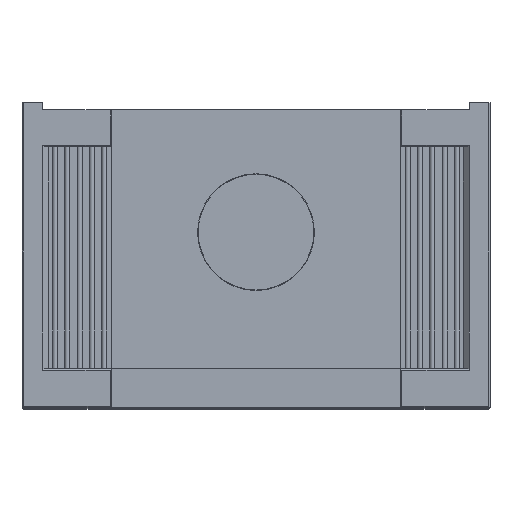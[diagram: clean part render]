
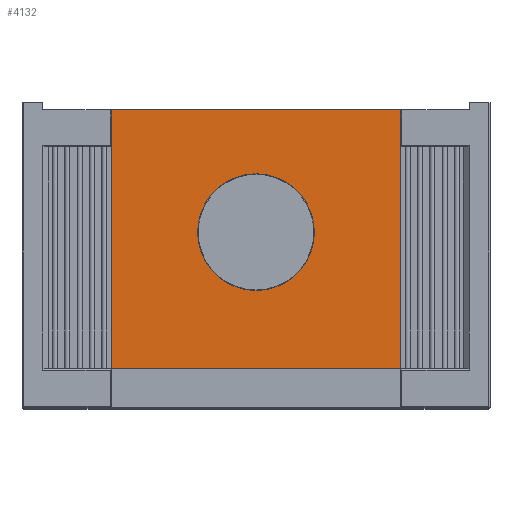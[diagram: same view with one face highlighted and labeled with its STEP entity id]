
A CAD part, top view. The second image highlights one B-rep face of the part: STEP entity #4132.
In plain terms, the highlighted planar face has unit normal (0, 0, 1).
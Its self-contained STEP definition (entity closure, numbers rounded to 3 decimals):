
#4132 = ADVANCED_FACE( '', ( #8669, #8670 ), #8671, .T. );
#8669 = FACE_OUTER_BOUND( '', #13923, .T. );
#8670 = FACE_BOUND( '', #13924, .T. );
#8671 = PLANE( '', #13925 );
#13923 = EDGE_LOOP( '', ( #27506, #27507, #27508, #27509 ) );
#13924 = EDGE_LOOP( '', ( #27510 ) );
#13925 = AXIS2_PLACEMENT_3D( '', #27511, #27512, #27513 );
#27506 = ORIENTED_EDGE( '', *, *, #32679, .F. );
#27507 = ORIENTED_EDGE( '', *, *, #36694, .F. );
#27508 = ORIENTED_EDGE( '', *, *, #36683, .T. );
#27509 = ORIENTED_EDGE( '', *, *, #32616, .T. );
#27510 = ORIENTED_EDGE( '', *, *, #33694, .T. );
#27511 = CARTESIAN_POINT( '', ( -293., -15., 1752. ) );
#27512 = DIRECTION( '', ( 0., 0., 1. ) );
#27513 = DIRECTION( '', ( 1., 0., 0. ) );
#32616 = EDGE_CURVE( '', #38773, #38770, #38774, .T. );
#32679 = EDGE_CURVE( '', #38876, #38770, #38878, .T. );
#33694 = EDGE_CURVE( '', #40590, #40590, #40591, .T. );
#36683 = EDGE_CURVE( '', #44906, #38773, #44907, .T. );
#36694 = EDGE_CURVE( '', #44906, #38876, #44923, .T. );
#38770 = VERTEX_POINT( '', #47720 );
#38773 = VERTEX_POINT( '', #47724 );
#38774 = LINE( '', #47725, #47726 );
#38876 = VERTEX_POINT( '', #47872 );
#38878 = LINE( '', #47875, #47876 );
#40590 = VERTEX_POINT( '', #51179 );
#40591 = CIRCLE( '', #51180, 118.469 );
#44906 = VERTEX_POINT( '', #60927 );
#44907 = LINE( '', #60928, #60929 );
#44923 = LINE( '', #60955, #60956 );
#47720 = CARTESIAN_POINT( '', ( 293., -539.683, 1752. ) );
#47724 = CARTESIAN_POINT( '', ( -293., -539.683, 1752. ) );
#47725 = CARTESIAN_POINT( '', ( -293., -539.683, 1752. ) );
#47726 = VECTOR( '', #64455, 1000. );
#47872 = CARTESIAN_POINT( '', ( 293., -15., 1752. ) );
#47875 = CARTESIAN_POINT( '', ( 293., -15., 1752. ) );
#47876 = VECTOR( '', #64505, 1000. );
#51179 = CARTESIAN_POINT( '', ( 118.469, -263.1, 1752. ) );
#51180 = AXIS2_PLACEMENT_3D( '', #65336, #65337, #65338 );
#60927 = CARTESIAN_POINT( '', ( -293., -15., 1752. ) );
#60928 = CARTESIAN_POINT( '', ( -293., -15., 1752. ) );
#60929 = VECTOR( '', #67226, 1000. );
#60955 = CARTESIAN_POINT( '', ( -293., -15., 1752. ) );
#60956 = VECTOR( '', #67234, 1000. );
#64455 = DIRECTION( '', ( 1., 0., 0. ) );
#64505 = DIRECTION( '', ( 0., -1., 0. ) );
#65336 = CARTESIAN_POINT( '', ( 0., -263.1, 1752. ) );
#65337 = DIRECTION( '', ( 0., 0., -1. ) );
#65338 = DIRECTION( '', ( 1., 0., 0. ) );
#67226 = DIRECTION( '', ( 0., -1., 0. ) );
#67234 = DIRECTION( '', ( 1., 0., 0. ) );
